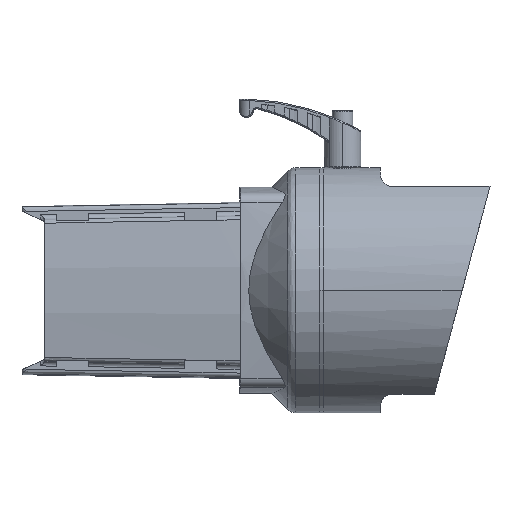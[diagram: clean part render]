
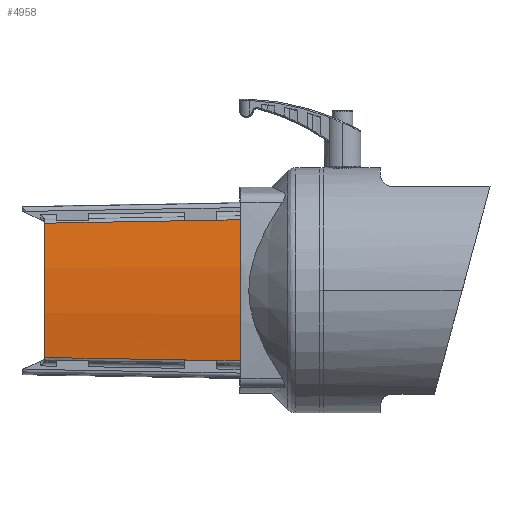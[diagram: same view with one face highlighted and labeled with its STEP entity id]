
A CAD part, left-side view. The second image highlights one B-rep face of the part: STEP entity #4958.
In plain terms, the highlighted cylindrical face has radius 193.5 mm (diameter 387 mm), a partial arc.
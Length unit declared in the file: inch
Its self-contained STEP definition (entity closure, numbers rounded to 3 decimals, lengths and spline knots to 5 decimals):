
#306 = CARTESIAN_POINT ( 'NONE',  ( -1.02592, 1.83071, -1.20637 ) ) ;
#371 = DIRECTION ( 'NONE',  ( 0., 0., 1. ) ) ;
#372 = DIRECTION ( 'NONE',  ( 0., 1., 0. ) ) ;
#373 = CARTESIAN_POINT ( 'NONE',  ( 6.49606, 1.83071, 0. ) ) ;
#374 = AXIS2_PLACEMENT_3D ( 'NONE', #373, #372, #371 ) ;
#375 = CIRCLE ( 'NONE', #374, 7.61811 ) ;
#454 = CARTESIAN_POINT ( 'NONE',  ( -1.02592, 1.83071, 1.20637 ) ) ;
#455 = CARTESIAN_POINT ( 'NONE',  ( -1.02553, 1.69351, 1.20879 ) ) ;
#456 = CARTESIAN_POINT ( 'NONE',  ( -1.02515, 1.55632, 1.21121 ) ) ;
#457 = CARTESIAN_POINT ( 'NONE',  ( -1.02475, 1.41912, 1.21363 ) ) ;
#459 = B_SPLINE_CURVE_WITH_KNOTS ( 'NONE', 3,
 ( #457, #456, #455, #454 ),
 .UNSPECIFIED., .F., .F.,
 ( 4, 4 ),
 ( 0., 1. ),
 .UNSPECIFIED. ) ;
#520 = CARTESIAN_POINT ( 'NONE',  ( -1.02475, 1.41912, 1.21363 ) ) ;
#521 = CARTESIAN_POINT ( 'NONE',  ( -1.15476, 1.41685, 0.40802 ) ) ;
#522 = CARTESIAN_POINT ( 'NONE',  ( -1.15476, 1.41685, -0.40802 ) ) ;
#523 = CARTESIAN_POINT ( 'NONE',  ( -1.02475, 1.41912, -1.21363 ) ) ;
#524 =( BOUNDED_CURVE ( )  B_SPLINE_CURVE ( 3, ( #523, #522, #521, #520 ),
 .UNSPECIFIED., .F., .T. ) 
 B_SPLINE_CURVE_WITH_KNOTS ( ( 4, 4 ),
 ( 2.9816, 3.30158 ),
 .UNSPECIFIED. ) 
 CURVE ( )  GEOMETRIC_REPRESENTATION_ITEM ( )  RATIONAL_B_SPLINE_CURVE ( ( 1., 0.991, 0.991, 1. ) ) 
 REPRESENTATION_ITEM ( '' )  );
#525 = CARTESIAN_POINT ( 'NONE',  ( -1.02475, 1.41912, 1.21363 ) ) ;
#526 = CARTESIAN_POINT ( 'NONE',  ( -1.02475, 1.41912, -1.21363 ) ) ;
#527 = DIRECTION ( 'NONE',  ( 0., 0., 1. ) ) ;
#528 = DIRECTION ( 'NONE',  ( 0., 1., 0. ) ) ;
#529 = AXIS2_PLACEMENT_3D ( 'NONE', #530, #528, #527 ) ;
#530 = CARTESIAN_POINT ( 'NONE',  ( 6.49606, 1.39723, 0. ) ) ;
#531 = CYLINDRICAL_SURFACE ( 'NONE', #529, 7.61811 ) ;
#532 = FACE_OUTER_BOUND ( 'NONE', #5038, .T. ) ;
#694 = CARTESIAN_POINT ( 'NONE',  ( -1.02475, 1.41912, -1.21363 ) ) ;
#695 = CARTESIAN_POINT ( 'NONE',  ( -1.02515, 1.55632, -1.21121 ) ) ;
#696 = CARTESIAN_POINT ( 'NONE',  ( -1.02553, 1.69351, -1.20879 ) ) ;
#697 = CARTESIAN_POINT ( 'NONE',  ( -1.02592, 1.83071, -1.20637 ) ) ;
#749 = B_SPLINE_CURVE_WITH_KNOTS ( 'NONE', 3,
 ( #697, #696, #695, #694 ),
 .UNSPECIFIED., .F., .F.,
 ( 4, 4 ),
 ( 0., 1. ),
 .UNSPECIFIED. ) ;
#2508 = EDGE_CURVE ( 'NONE', #2569, #2596, #38310, .T. ) ;
#2523 = EDGE_CURVE ( 'NONE', #2581, #2525, #38333, .T. ) ;
#2525 = VERTEX_POINT ( 'NONE', #38328 ) ;
#2569 = VERTEX_POINT ( 'NONE', #37985 ) ;
#2581 = VERTEX_POINT ( 'NONE', #38520 ) ;
#2596 = VERTEX_POINT ( 'NONE', #38519 ) ;
#2634 = EDGE_CURVE ( 'NONE', #2525, #2569, #38464, .T. ) ;
#4654 = EDGE_CURVE ( 'NONE', #4870, #2581, #375, .T. ) ;
#4870 = VERTEX_POINT ( 'NONE', #306 ) ;
#4871 = ORIENTED_EDGE ( 'NONE', *, *, #2634, .F. ) ;
#4958 = ADVANCED_FACE ( 'NONE', ( #532 ), #531, .T. ) ;
#4959 = ORIENTED_EDGE ( 'NONE', *, *, #4960, .T. ) ;
#4960 = EDGE_CURVE ( 'NONE', #4961, #4962, #524, .T. ) ;
#4961 = VERTEX_POINT ( 'NONE', #526 ) ;
#4962 = VERTEX_POINT ( 'NONE', #525 ) ;
#4963 = ORIENTED_EDGE ( 'NONE', *, *, #4964, .T. ) ;
#4964 = EDGE_CURVE ( 'NONE', #4962, #6502, #459, .T. ) ;
#4965 = ORIENTED_EDGE ( 'NONE', *, *, #6501, .F. ) ;
#4966 = ORIENTED_EDGE ( 'NONE', *, *, #6475, .F. ) ;
#4967 = ORIENTED_EDGE ( 'NONE', *, *, #6486, .F. ) ;
#4968 = ORIENTED_EDGE ( 'NONE', *, *, #2508, .F. ) ;
#4997 = ORIENTED_EDGE ( 'NONE', *, *, #4654, .F. ) ;
#5038 = EDGE_LOOP ( 'NONE', ( #4959, #4963, #4965, #4966, #4967, #4968, #4871, #5042, #4997, #5157 ) ) ;
#5042 = ORIENTED_EDGE ( 'NONE', *, *, #2523, .F. ) ;
#5157 = ORIENTED_EDGE ( 'NONE', *, *, #5163, .T. ) ;
#5163 = EDGE_CURVE ( 'NONE', #4870, #4961, #749, .T. ) ;
#6475 = EDGE_CURVE ( 'NONE', #6487, #6476, #15928, .T. ) ;
#6476 = VERTEX_POINT ( 'NONE', #15932 ) ;
#6486 = EDGE_CURVE ( 'NONE', #2596, #6487, #17184, .T. ) ;
#6487 = VERTEX_POINT ( 'NONE', #11906 ) ;
#6501 = EDGE_CURVE ( 'NONE', #6476, #6502, #21906, .T. ) ;
#6502 = VERTEX_POINT ( 'NONE', #21907 ) ;
#11906 = CARTESIAN_POINT ( 'NONE',  ( -1.02682, 2.14736, 1.20079 ) ) ;
#15928 = LINE ( 'NONE', #15935, #15934 ) ;
#15932 = CARTESIAN_POINT ( 'NONE',  ( -1.02682, 1.83071, 1.20079 ) ) ;
#15933 = DIRECTION ( 'NONE',  ( 0., -1., 0. ) ) ;
#15934 = VECTOR ( 'NONE', #15933, 39.37008 ) ;
#15935 = CARTESIAN_POINT ( 'NONE',  ( -1.02682, 3.10044, 1.20079 ) ) ;
#16733 = CARTESIAN_POINT ( 'NONE',  ( -1.02682, 2.14736, 1.20079 ) ) ;
#17179 = CARTESIAN_POINT ( 'NONE',  ( -1.02929, 3.02606, 1.18529 ) ) ;
#17180 = CARTESIAN_POINT ( 'NONE',  ( -1.03171, 3.90476, 1.16979 ) ) ;
#17181 = CARTESIAN_POINT ( 'NONE',  ( -1.03409, 4.78346, 1.15429 ) ) ;
#17184 = B_SPLINE_CURVE_WITH_KNOTS ( 'NONE', 3,
 ( #17181, #17180, #17179, #16733 ),
 .UNSPECIFIED., .F., .F.,
 ( 4, 4 ),
 ( 0., 1. ),
 .UNSPECIFIED. ) ;
#21904 = DIRECTION ( 'NONE',  ( 0., 1., 0. ) ) ;
#21905 = AXIS2_PLACEMENT_3D ( 'NONE', #21946, #21904, #21937 ) ;
#21906 = CIRCLE ( 'NONE', #21905, 7.61811 ) ;
#21907 = CARTESIAN_POINT ( 'NONE',  ( -1.02592, 1.83071, 1.20637 ) ) ;
#21937 = DIRECTION ( 'NONE',  ( 0., 0., 1. ) ) ;
#21946 = CARTESIAN_POINT ( 'NONE',  ( 6.49606, 1.83071, 0. ) ) ;
#37985 = CARTESIAN_POINT ( 'NONE',  ( -1.03409, 4.78346, -1.15429 ) ) ;
#38307 = DIRECTION ( 'NONE',  ( 0., 0., 1. ) ) ;
#38308 = DIRECTION ( 'NONE',  ( 0., 1., 0. ) ) ;
#38309 = AXIS2_PLACEMENT_3D ( 'NONE', #38313, #38308, #38307 ) ;
#38310 = CIRCLE ( 'NONE', #38309, 7.61811 ) ;
#38313 = CARTESIAN_POINT ( 'NONE',  ( 6.49606, 4.78346, 0. ) ) ;
#38328 = CARTESIAN_POINT ( 'NONE',  ( -1.02682, 2.14736, -1.20079 ) ) ;
#38329 = DIRECTION ( 'NONE',  ( 0., 1., 0. ) ) ;
#38330 = VECTOR ( 'NONE', #38329, 39.37008 ) ;
#38331 = CARTESIAN_POINT ( 'NONE',  ( -1.02682, 3.10044, -1.20079 ) ) ;
#38333 = LINE ( 'NONE', #38331, #38330 ) ;
#38464 = B_SPLINE_CURVE_WITH_KNOTS ( 'NONE', 3,
 ( #38581, #38580, #38579, #38578 ),
 .UNSPECIFIED., .F., .F.,
 ( 4, 4 ),
 ( 0., 1. ),
 .UNSPECIFIED. ) ;
#38519 = CARTESIAN_POINT ( 'NONE',  ( -1.03409, 4.78346, 1.15429 ) ) ;
#38520 = CARTESIAN_POINT ( 'NONE',  ( -1.02682, 1.83071, -1.20079 ) ) ;
#38578 = CARTESIAN_POINT ( 'NONE',  ( -1.03409, 4.78346, -1.15429 ) ) ;
#38579 = CARTESIAN_POINT ( 'NONE',  ( -1.03171, 3.90476, -1.16979 ) ) ;
#38580 = CARTESIAN_POINT ( 'NONE',  ( -1.02929, 3.02606, -1.18529 ) ) ;
#38581 = CARTESIAN_POINT ( 'NONE',  ( -1.02682, 2.14736, -1.20079 ) ) ;
